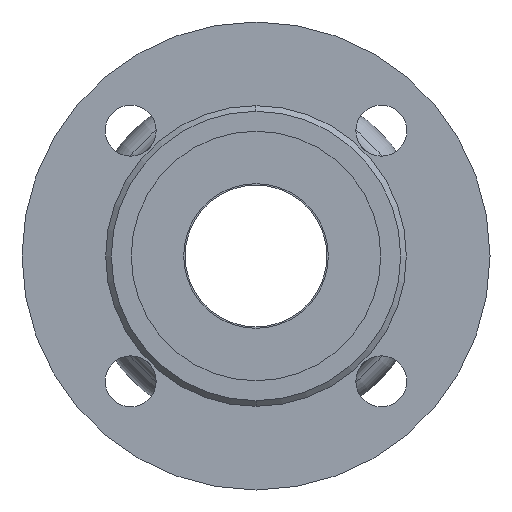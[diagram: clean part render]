
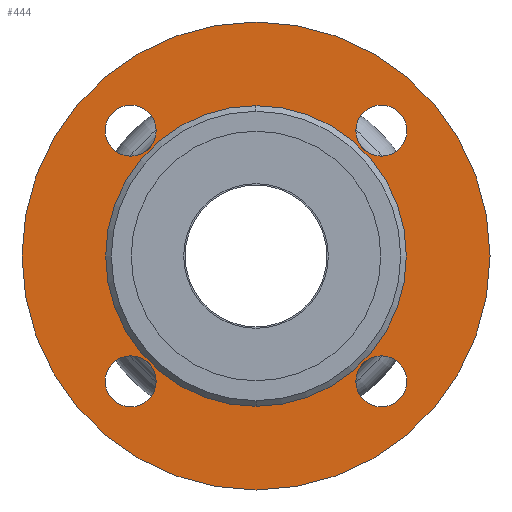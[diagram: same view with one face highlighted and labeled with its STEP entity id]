
A CAD part, left-side view. The second image highlights one B-rep face of the part: STEP entity #444.
In plain terms, the highlighted planar face has unit normal (-1, 0, 0).
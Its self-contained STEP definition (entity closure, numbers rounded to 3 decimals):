
#444=ADVANCED_FACE('',(#858,#859,#860,#861,#862,#863),#864,.F.);
#858=FACE_BOUND('',#1350,.T.);
#859=FACE_BOUND('',#1351,.T.);
#860=FACE_BOUND('',#1352,.T.);
#861=FACE_BOUND('',#1353,.T.);
#862=FACE_BOUND('',#1354,.T.);
#863=FACE_OUTER_BOUND('',#1355,.T.);
#864=PLANE('',#1356);
#1350=EDGE_LOOP('',(#2106,#2107));
#1351=EDGE_LOOP('',(#2108,#2109));
#1352=EDGE_LOOP('',(#2110,#2111));
#1353=EDGE_LOOP('',(#2112,#2113));
#1354=EDGE_LOOP('',(#2114,#2115));
#1355=EDGE_LOOP('',(#2116,#2117));
#1356=AXIS2_PLACEMENT_3D('',#2118,#2119,#2120);
#2106=ORIENTED_EDGE('',*,*,#2826,.T.);
#2107=ORIENTED_EDGE('',*,*,#2648,.T.);
#2108=ORIENTED_EDGE('',*,*,#2732,.T.);
#2109=ORIENTED_EDGE('',*,*,#2827,.T.);
#2110=ORIENTED_EDGE('',*,*,#2711,.T.);
#2111=ORIENTED_EDGE('',*,*,#2785,.T.);
#2112=ORIENTED_EDGE('',*,*,#2585,.T.);
#2113=ORIENTED_EDGE('',*,*,#2828,.T.);
#2114=ORIENTED_EDGE('',*,*,#2716,.T.);
#2115=ORIENTED_EDGE('',*,*,#2808,.T.);
#2116=ORIENTED_EDGE('',*,*,#2824,.F.);
#2117=ORIENTED_EDGE('',*,*,#2624,.F.);
#2118=CARTESIAN_POINT('',(5.0,0.0,0.));
#2119=DIRECTION('',(1.0,0.0,0.));
#2120=DIRECTION('',(0.,0.0,-1.0));
#2585=EDGE_CURVE('',#3007,#3011,#3013,.T.);
#2624=EDGE_CURVE('',#3080,#3075,#3082,.T.);
#2648=EDGE_CURVE('',#3125,#3123,#3126,.T.);
#2711=EDGE_CURVE('',#3214,#3218,#3220,.T.);
#2716=EDGE_CURVE('',#3223,#3227,#3229,.T.);
#2732=EDGE_CURVE('',#3248,#3252,#3254,.T.);
#2785=EDGE_CURVE('',#3218,#3214,#3327,.T.);
#2808=EDGE_CURVE('',#3227,#3223,#3357,.T.);
#2824=EDGE_CURVE('',#3075,#3080,#3373,.T.);
#2826=EDGE_CURVE('',#3123,#3125,#3375,.T.);
#2827=EDGE_CURVE('',#3252,#3248,#3376,.T.);
#2828=EDGE_CURVE('',#3011,#3007,#3377,.T.);
#3007=VERTEX_POINT('',#3588);
#3011=VERTEX_POINT('',#3593);
#3013=CIRCLE('',#3596,9.0);
#3075=VERTEX_POINT('',#3670);
#3080=VERTEX_POINT('',#3676);
#3082=CIRCLE('',#3679,82.5);
#3123=VERTEX_POINT('',#3722);
#3125=VERTEX_POINT('',#3725);
#3126=CIRCLE('',#3726,25.0);
#3214=VERTEX_POINT('',#3827);
#3218=VERTEX_POINT('',#3832);
#3220=CIRCLE('',#3835,9.0);
#3223=VERTEX_POINT('',#3838);
#3227=VERTEX_POINT('',#3843);
#3229=CIRCLE('',#3846,9.0);
#3248=VERTEX_POINT('',#3865);
#3252=VERTEX_POINT('',#3870);
#3254=CIRCLE('',#3873,9.0);
#3327=CIRCLE('',#3957,9.0);
#3357=CIRCLE('',#3996,9.0);
#3373=CIRCLE('',#4016,82.5);
#3375=CIRCLE('',#4018,25.0);
#3376=CIRCLE('',#4019,9.0);
#3377=CIRCLE('',#4020,9.0);
#3588=CARTESIAN_POINT('',(5.0,-44.194,35.194));
#3593=CARTESIAN_POINT('',(5.0,-44.194,53.194));
#3596=AXIS2_PLACEMENT_3D('',#4241,#4242,#4243);
#3670=CARTESIAN_POINT('',(5.,0.0,-82.5));
#3676=CARTESIAN_POINT('',(5.,0.,82.5));
#3679=AXIS2_PLACEMENT_3D('',#4303,#4304,#4305);
#3722=CARTESIAN_POINT('',(5.0,0.0,-25.0));
#3725=CARTESIAN_POINT('',(5.0,0.,25.0));
#3726=AXIS2_PLACEMENT_3D('',#4354,#4355,#4356);
#3827=CARTESIAN_POINT('',(5.0,44.194,35.194));
#3832=CARTESIAN_POINT('',(5.0,44.194,53.194));
#3835=AXIS2_PLACEMENT_3D('',#4462,#4463,#4464);
#3838=CARTESIAN_POINT('',(5.0,-44.194,-53.194));
#3843=CARTESIAN_POINT('',(5.0,-44.194,-35.194));
#3846=AXIS2_PLACEMENT_3D('',#4470,#4471,#4472);
#3865=CARTESIAN_POINT('',(5.0,44.194,-53.194));
#3870=CARTESIAN_POINT('',(5.0,44.194,-35.194));
#3873=AXIS2_PLACEMENT_3D('',#4502,#4503,#4504);
#3957=AXIS2_PLACEMENT_3D('',#4594,#4595,#4596);
#3996=AXIS2_PLACEMENT_3D('',#4621,#4622,#4623);
#4016=AXIS2_PLACEMENT_3D('',#4637,#4638,#4639);
#4018=AXIS2_PLACEMENT_3D('',#4640,#4641,#4642);
#4019=AXIS2_PLACEMENT_3D('',#4643,#4644,#4645);
#4020=AXIS2_PLACEMENT_3D('',#4646,#4647,#4648);
#4241=CARTESIAN_POINT('',(5.0,-44.194,44.194));
#4242=DIRECTION('',(1.0,0.0,0.));
#4243=DIRECTION('',(0.,0.0,-1.0));
#4303=CARTESIAN_POINT('',(5.0,0.0,0.));
#4304=DIRECTION('',(1.0,0.0,0.));
#4305=DIRECTION('',(0.,0.0,-1.0));
#4354=CARTESIAN_POINT('',(5.0,0.0,0.));
#4355=DIRECTION('',(1.0,0.0,0.));
#4356=DIRECTION('',(0.,0.0,-1.0));
#4462=CARTESIAN_POINT('',(5.0,44.194,44.194));
#4463=DIRECTION('',(1.0,0.0,0.));
#4464=DIRECTION('',(0.,0.0,-1.0));
#4470=CARTESIAN_POINT('',(5.0,-44.194,-44.194));
#4471=DIRECTION('',(1.0,0.0,0.));
#4472=DIRECTION('',(0.,0.0,-1.0));
#4502=CARTESIAN_POINT('',(5.0,44.194,-44.194));
#4503=DIRECTION('',(1.0,0.0,0.));
#4504=DIRECTION('',(0.,0.0,-1.0));
#4594=CARTESIAN_POINT('',(5.0,44.194,44.194));
#4595=DIRECTION('',(1.0,0.0,0.));
#4596=DIRECTION('',(0.,0.0,-1.0));
#4621=CARTESIAN_POINT('',(5.0,-44.194,-44.194));
#4622=DIRECTION('',(1.0,0.0,0.));
#4623=DIRECTION('',(0.,0.0,-1.0));
#4637=CARTESIAN_POINT('',(5.0,0.0,0.));
#4638=DIRECTION('',(1.0,0.0,0.));
#4639=DIRECTION('',(0.,0.0,-1.0));
#4640=CARTESIAN_POINT('',(5.0,0.0,0.));
#4641=DIRECTION('',(1.0,0.0,0.));
#4642=DIRECTION('',(0.,0.0,-1.0));
#4643=CARTESIAN_POINT('',(5.0,44.194,-44.194));
#4644=DIRECTION('',(1.0,0.0,0.));
#4645=DIRECTION('',(0.,0.0,-1.0));
#4646=CARTESIAN_POINT('',(5.0,-44.194,44.194));
#4647=DIRECTION('',(1.0,0.0,0.));
#4648=DIRECTION('',(0.,0.0,-1.0));
